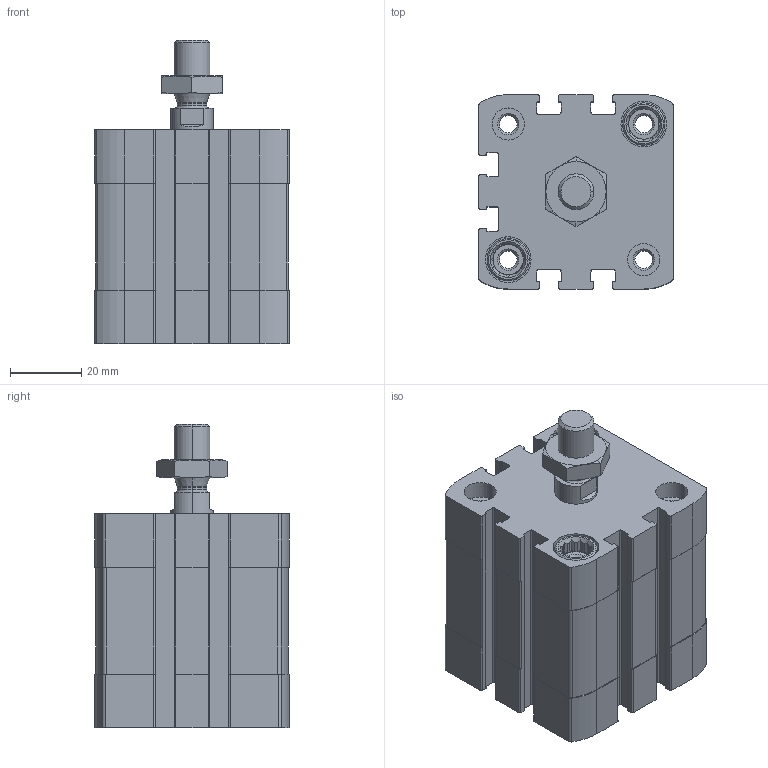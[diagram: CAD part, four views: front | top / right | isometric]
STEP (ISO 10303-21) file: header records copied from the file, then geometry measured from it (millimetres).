
FILE_DESCRIPTION (( 'STEP AP203' ), '1' );
FILE_NAME ('CCN40-15M.STEP', '2017-03-30T12:25:01', ( '' ), ( '' ), 'SwSTEP 2.0', 'SolidWorks 2016', '' );
FILE_SCHEMA (( 'CONFIG_CONTROL_DESIGN' ));
Length unit declared in the file: millimetre
Products named in the file (4): CCN-15---(Z); CCN-15_(KS); _DIN-439-B - M10x1.25(F); CCN40-15M
Assembly tree (3 placements, depth 2):
  CCN40-15M
    CCN-15---(Z)
    CCN-15_(KS)
    _DIN-439-B - M10x1.25(F)
Bounding box: 54.5 x 54.5 x 85.1 mm (x, y, z)
Volume: 139780.4 mm3; surface area: 42483.3 mm2
Topology: 3 solids, 3 shells, 499 faces, 1332 edges, 870 vertices
Faces by surface type: plane 275, cylinder 172, cone 48, bspline 4
Entity records: 16226 total; most frequent: CARTESIAN_POINT 3115, DIRECTION 2716, ORIENTED_EDGE 2664, EDGE_CURVE 1332, AXIS2_PLACEMENT_3D 995, VERTEX_POINT 870, LINE 726, VECTOR 726
